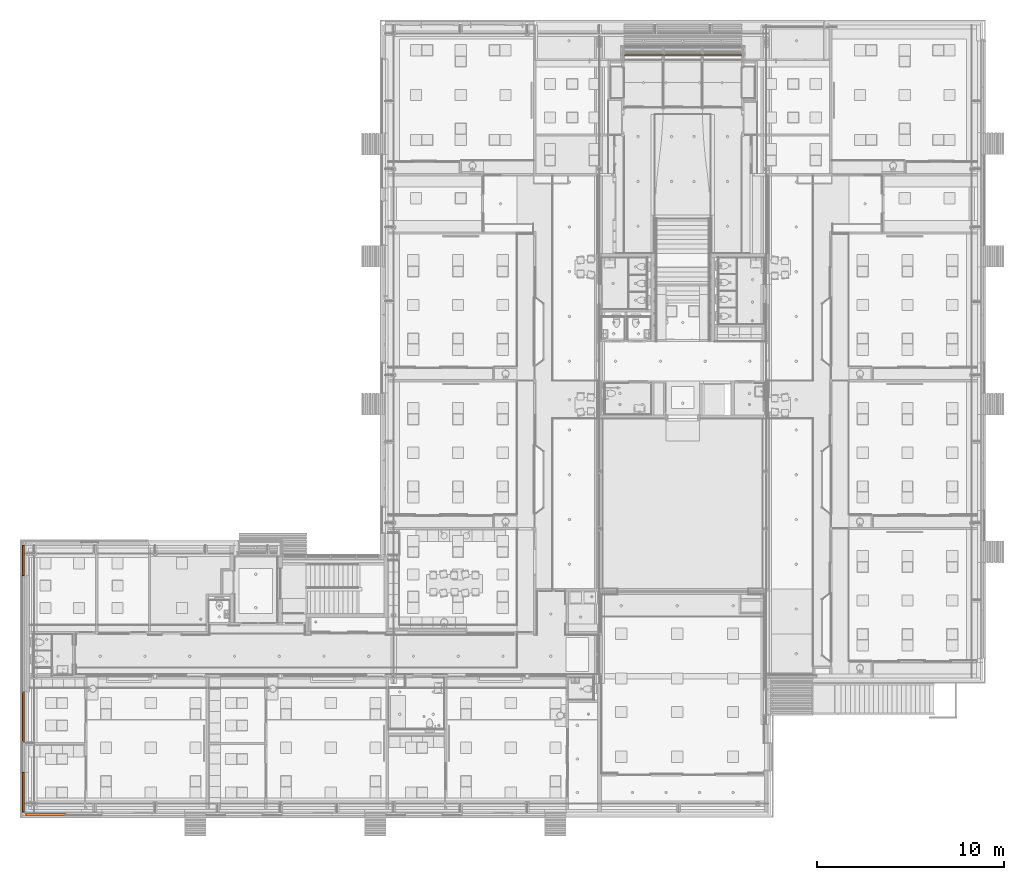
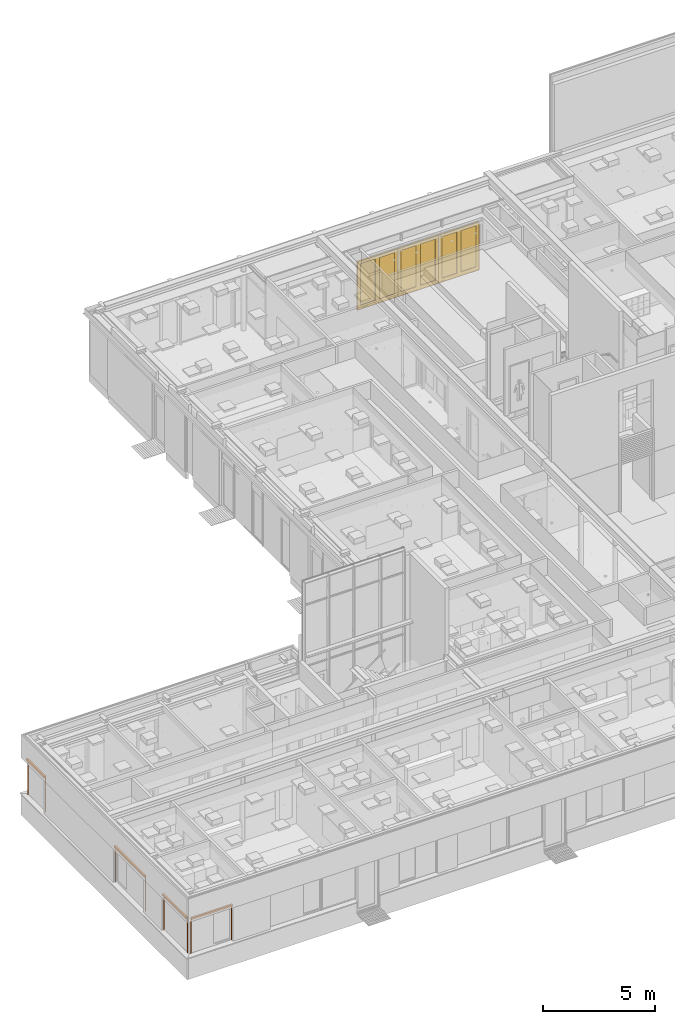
# One storey, part 338 of 347: 5 proxies, 3 doors, 3 openings.
"""IFC2X3 building model written with IfcOpenShell, lengths in millimetres."""

from ifc_helpers import new_model, entity, si_unit, converted_unit, derived_unit, money_unit, direction, frame, origin_with_axes, place, context, subcontext, project, spatial, open_shell, faceted_brep, surface_model, source, transform, mapped, material, type_object, type_shapes, element, fill, save


model = new_model("IFC2X3")

# Units and contexts
model_context = context("Model", 3, precision=0.01, world=origin_with_axes(), true_north=direction((0.0, 1.0)))
plan_context = context("Plan", 3, precision=0.01, world=origin_with_axes(), true_north=direction((0.0, 1.0)))
body_context = subcontext(model_context, "Body", "Model", "MODEL_VIEW")
ifc_project = project(units=[si_unit("LENGTHUNIT", "METRE", prefix="MILLI"), si_unit("AREAUNIT", "SQUARE_METRE"), si_unit("VOLUMEUNIT", "CUBIC_METRE"), converted_unit("PLANEANGLEUNIT", "DEGREE", entity("IfcPlaneAngleMeasure", 0.0174532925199), si_unit("PLANEANGLEUNIT", "RADIAN"), dimensions=[0, 0, 0, 0, 0, 0, 0]), money_unit("EUR"), converted_unit("TIMEUNIT", "Year", entity("IfcTimeMeasure", 31556926.0), si_unit("TIMEUNIT", "SECOND"), dimensions=[0, 0, 1, 0, 0, 0, 0]), si_unit("MASSUNIT", "GRAM", prefix="KILO"), si_unit("THERMODYNAMICTEMPERATUREUNIT", "DEGREE_CELSIUS"), si_unit("LUMINOUSINTENSITYUNIT", "LUMEN"), si_unit("ENERGYUNIT", "JOULE", prefix="MEGA"), derived_unit("THERMALCONDUCTANCEUNIT", [(si_unit("POWERUNIT", "WATT"), 1), (si_unit("LENGTHUNIT", "METRE"), -1), (si_unit("THERMODYNAMICTEMPERATUREUNIT", "KELVIN"), -1)]), derived_unit("SPECIFICHEATCAPACITYUNIT", [(si_unit("ENERGYUNIT", "JOULE"), 1), (si_unit("MASSUNIT", "GRAM", prefix="KILO"), -1), (si_unit("THERMODYNAMICTEMPERATUREUNIT", "KELVIN"), -1)]), derived_unit("MASSDENSITYUNIT", [(si_unit("MASSUNIT", "GRAM", prefix="KILO"), 1), (si_unit("VOLUMEUNIT", "CUBIC_METRE"), -1)])], contexts=[model_context, plan_context])

# Site, building, storey
site_placement = place(None, origin_with_axes())
site = spatial("IfcSite", under=ifc_project, at=site_placement, Name="Site", CompositionType="ELEMENT")
building_placement = place(site_placement, origin_with_axes())
building = spatial("IfcBuilding", under=site, at=building_placement, Name="Naam gebouw", CompositionType="ELEMENT")
storey_placement = place(building_placement, origin_with_axes())
storey = spatial("IfcBuildingStorey", under=building, at=storey_placement, Name="begane grond", CompositionType="ELEMENT", Elevation=0.0)

# Proxy, openings, doors
ifc_material = material(Name="ALG - BUITENkozijn")
building_element_proxy_type_1 = type_object("IfcBuildingElementProxyType", Name="ALG - BUITENkozijn 72", PredefinedType="NOTDEFINED")
proxy_1_placement = place(storey_placement, frame((36925.0, 45408.0, -70.0), z_axis=(0.0, 0.0, 1.0), x_axis=(1.0, 0.0, 0.0)))
proxy_1 = element("IfcBuildingElementProxy", 1, at=proxy_1_placement, inside=storey, type_object=building_element_proxy_type_1, material=ifc_material, Name="42_53 wandtegels keramisch", context=body_context, shape_type="Brep", body=[
    faceted_brep([(4205.0, 72.0, 30.0), (6295.0, 72.0, 30.0), (6295.0, 72.0, 2600.0), (6300.0, 72.0, 2600.0), (6300.0, 72.0, 70.0), (6300.0, 72.0, 0.0), (0.0, 72.0, 0.0), (0.0, 72.0, 70.0), (0.0, 72.0, 2600.0), (5.00000000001, 72.0, 2600.0), (5.00000000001, 72.0, 30.0), (2095.0, 72.0, 30.0), (2095.0, 72.0, 2600.0), (2105.0, 72.0, 2600.0), (2105.0, 72.0, 30.0), (4195.0, 72.0, 30.0), (4195.0, 72.0, 2600.0), (4205.0, 72.0, 2600.0), (4205.0, 0.0, 30.0), (6295.0, 0.0, 30.0), (6295.0, 0.0, 2600.0), (6300.0, 0.0, 2600.0), (6300.0, 0.0, 70.0), (6300.0, 0.0, 0.0), (0.0, 0.0, 0.0), (0.0, 0.0, 2600.0), (0.0, 0.0, 70.0), (5.00000000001, 0.0, 2600.0), (5.00000000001, 0.0, 30.0), (2095.0, 0.0, 30.0), (2095.0, 0.0, 2600.0), (2105.0, 0.0, 2600.0), (2105.0, 0.0, 30.0), (4195.0, 0.0, 30.0), (4195.0, 0.0, 2600.0), (4205.0, 0.0, 2600.0)], [[[0, 1, 2, 3, 4, 5, 6, 7, 8, 9, 10, 11, 12, 13, 14, 15, 16, 17]], [[1, 0, 18, 19]], [[20, 2, 1, 19]], [[2, 20, 21, 3]], [[3, 21, 22, 23, 5, 4]], [[5, 23, 24, 6]], [[25, 8, 7, 6, 24, 26]], [[9, 8, 25, 27]], [[9, 27, 28, 10]], [[10, 28, 29, 11]], [[12, 11, 29, 30]], [[30, 31, 13, 12]], [[31, 32, 14, 13]], [[32, 33, 15, 14]], [[15, 33, 34, 16]], [[35, 17, 16, 34]], [[0, 17, 35, 18]], [[18, 35, 34, 33, 32, 31, 30, 29, 28, 27, 25, 26, 24, 23, 22, 21, 20, 19]]]),
])
opening_1_placement = place(proxy_1_placement, frame((3150.0, 0.0, 30.0), z_axis=(0.0, 0.0, 1.0), x_axis=(1.0, 0.0, 0.0)))
opening_1 = element("IfcOpeningElement", 2, at=opening_1_placement, cuts=proxy_1, Name="31_merk-AV", context=body_context, shape_type="Brep", body=[
    faceted_brep([(-1045.0, 144.0, 2620.0), (-1045.0, 144.0, 0.0), (-1045.0, -72.0, 0.0), (-1045.0, -72.0, 2620.0), (1045.0, 144.0, 2620.0), (1045.0, 144.0, 0.0), (1045.0, -72.0, 0.0), (1045.0, -72.0, 2620.0)], [[[0, 1, 2, 3]], [[0, 4, 5, 1]], [[1, 5, 6, 2]], [[3, 2, 6, 7]], [[4, 0, 3, 7]], [[5, 4, 7, 6]]]),
])
opening_2_placement = place(proxy_1_placement, frame((1050.0, 0.0, 30.0), z_axis=(0.0, 0.0, 1.0), x_axis=(1.0, 0.0, 0.0)))
opening_2 = element("IfcOpeningElement", 3, at=opening_2_placement, cuts=proxy_1, Name="31_merk-AV", context=body_context, shape_type="Brep", body=[
    faceted_brep([(-1045.0, 144.0, 2620.0), (-1045.0, 144.0, 0.0), (-1045.0, -72.0, 0.0), (-1045.0, -72.0, 2620.0), (1045.0, 144.0, 2620.0), (1045.0, 144.0, 0.0), (1045.0, -72.0, 0.0), (1045.0, -72.0, 2620.0)], [[[0, 1, 2, 3]], [[0, 4, 5, 1]], [[1, 5, 6, 2]], [[3, 2, 6, 7]], [[4, 0, 3, 7]], [[5, 4, 7, 6]]]),
])
opening_3_placement = place(proxy_1_placement, frame((5250.0, 0.0, 30.0), z_axis=(0.0, 0.0, 1.0), x_axis=(1.0, 0.0, 0.0)))
opening_3 = element("IfcOpeningElement", 4, at=opening_3_placement, cuts=proxy_1, Name="31_merk-AV", context=body_context, shape_type="Brep", body=[
    faceted_brep([(-1045.0, 144.0, 2620.0), (-1045.0, 144.0, 0.0), (-1045.0, -72.0, 0.0), (-1045.0, -72.0, 2620.0), (1045.0, 144.0, 2620.0), (1045.0, 144.0, 0.0), (1045.0, -72.0, 0.0), (1045.0, -72.0, 2620.0)], [[[0, 1, 2, 3]], [[0, 4, 5, 1]], [[1, 5, 6, 2]], [[3, 2, 6, 7]], [[4, 0, 3, 7]], [[5, 4, 7, 6]]]),
])
door_style = type_object("IfcDoorStyle", Name="D2 25", ConstructionType="NOTDEFINED", OperationType="DOUBLE_DOOR_SINGLE_SWING", ParameterTakesPrecedence=False, Sizeable=False)
shared_shape = source(origin_with_axes(), body_context, "Body", "SurfaceModel", [
    faceted_brep([(994.0, -62.0, 48.0), (994.0, 0.0, 48.0), (-994.0, 0.0, 48.0), (-994.0, -62.0, 48.0), (-977.0, -62.0, 48.0), (-977.0, -72.0, 48.0), (977.0, -72.0, 48.0), (977.0, -62.0, 48.0), (994.0, -62.0, 0.0), (994.0, 0.0, 0.0), (-994.0, 0.0, 0.0), (-994.0, -62.0, 0.0), (-977.0, -62.0, 0.0), (-977.0, -72.0, 0.0), (977.0, -72.0, 0.0), (977.0, -62.0, 0.0)], [[[0, 1, 2, 3, 4, 5, 6, 7]], [[8, 9, 1, 0]], [[9, 10, 2, 1]], [[11, 3, 2, 10]], [[3, 11, 12, 4]], [[5, 4, 12, 13]], [[6, 5, 13, 14]], [[14, 15, 7, 6]], [[7, 15, 8, 0]], [[15, 14, 13, 12, 11, 10, 9, 8]]]),
    faceted_brep([(977.0, -71.0, 0.0), (977.0, -72.0, 0.0), (977.0, -72.0, 2552.0), (977.0, -71.0, 2552.0), (994.0, -71.0, 0.0), (994.0, 0.0, 0.0), (1045.0, 0.0, 0.0), (1045.0, -72.0, 0.0), (1045.0, -72.0, 2552.0), (994.0, -71.0, 2552.0), (1045.0, 0.0, 2552.0), (994.0, 0.0, 2552.0)], [[[0, 1, 2, 3]], [[4, 5, 6, 7, 1, 0]], [[1, 7, 8, 2]], [[9, 3, 2, 8, 10, 11]], [[9, 4, 0, 3]], [[11, 5, 4, 9]], [[11, 10, 6, 5]], [[6, 10, 8, 7]]]),
    faceted_brep([(-994.0, -71.0, 2552.0), (-994.0, 0.0, 2552.0), (-1045.0, 0.0, 2552.0), (-1045.0, -72.0, 2552.0), (-977.0, -72.0, 2552.0), (-977.0, -71.0, 2552.0), (-994.0, -71.0, 0.0), (-994.0, 0.0, 0.0), (-1045.0, 0.0, 0.0), (-1045.0, -72.0, 0.0), (-977.0, -72.0, 0.0), (-977.0, -71.0, 0.0)], [[[0, 1, 2, 3, 4, 5]], [[0, 6, 7, 1]], [[7, 8, 2, 1]], [[2, 8, 9, 3]], [[3, 9, 10, 4]], [[5, 4, 10, 11]], [[5, 11, 6, 0]], [[6, 11, 10, 9, 8, 7]]]),
    faceted_brep([(994.0, 0.0, 2569.0), (-994.0, 0.0, 2569.0), (-994.0, 0.0, 2552.0), (-1045.0, 0.0, 2552.0), (-1045.0, 0.0, 2620.0), (1045.0, 0.0, 2620.0), (1045.0, 0.0, 2552.0), (994.0, 0.0, 2552.0), (994.0, -71.0, 2569.0), (-994.0, -71.0, 2569.0), (-994.0, -71.0, 2552.0), (-977.0, -71.0, 2552.0), (-977.0, -72.0, 2552.0), (-1045.0, -72.0, 2552.0), (-1045.0, -72.0, 2620.0), (1045.0, -72.0, 2620.0), (1045.0, -72.0, 2552.0), (994.0, -71.0, 2552.0), (977.0, -72.0, 2552.0), (977.0, -71.0, 2552.0)], [[[0, 1, 2, 3, 4, 5, 6, 7]], [[0, 8, 9, 1]], [[1, 9, 10, 2]], [[10, 11, 12, 13, 3, 2]], [[4, 3, 13, 14]], [[5, 4, 14, 15]], [[6, 5, 15, 16]], [[17, 7, 6, 16, 18, 19]], [[7, 17, 8, 0]], [[10, 9, 8, 17, 19, 11]], [[19, 18, 12, 11]], [[12, 18, 16, 15, 14, 13]]]),
    faceted_brep([(-994.0, -9.0, 198.0), (-884.0, -9.0, 198.0), (-884.0, -71.0, 198.0), (-994.0, -71.0, 198.0), (-994.0, -9.0, 2459.0), (-884.0, -9.0, 2459.0), (-884.0, -71.0, 2459.0), (-994.0, -71.0, 2459.0)], [[[0, 1, 2, 3]], [[0, 4, 5, 1]], [[1, 5, 6, 2]], [[3, 2, 6, 7]], [[4, 0, 3, 7]], [[5, 4, 7, 6]]]),
    faceted_brep([(0.0, -9.0, 198.0), (0.0, -9.0, 2459.0), (0.0, -71.0, 2459.0), (0.0, -71.0, 198.0), (-110.0, -9.0, 198.0), (-110.0, -9.0, 2459.0), (-110.0, -71.0, 2459.0), (-110.0, -71.0, 198.0)], [[[0, 1, 2, 3]], [[0, 4, 5, 1]], [[1, 5, 6, 2]], [[3, 2, 6, 7]], [[4, 0, 3, 7]], [[5, 4, 7, 6]]]),
    faceted_brep([(-994.0, -9.0, 48.0), (0.0, -9.0, 48.0), (0.0, -71.0, 48.0), (-994.0, -71.0, 48.0), (-994.0, -9.0, 198.0), (-884.0, -9.0, 198.0), (-110.0, -9.0, 198.0), (0.0, -9.0, 198.0), (0.0, -71.0, 198.0), (-110.0, -71.0, 198.0), (-884.0, -71.0, 198.0), (-994.0, -71.0, 198.0)], [[[0, 1, 2, 3]], [[0, 4, 5, 6, 7, 1]], [[1, 7, 8, 2]], [[3, 2, 8, 9, 10, 11]], [[4, 0, 3, 11]], [[5, 4, 11, 10]], [[6, 5, 10, 9]], [[7, 6, 9, 8]]]),
    faceted_brep([(-994.0, -9.0, 2569.0), (-994.0, -9.0, 2459.0), (-994.0, -71.0, 2459.0), (-994.0, -71.0, 2569.0), (0.0, -9.0, 2569.0), (0.0, -9.0, 2459.0), (-110.0, -9.0, 2459.0), (-884.0, -9.0, 2459.0), (-884.0, -71.0, 2459.0), (-110.0, -71.0, 2459.0), (0.0, -71.0, 2459.0), (0.0, -71.0, 2569.0)], [[[0, 1, 2, 3]], [[0, 4, 5, 6, 7, 1]], [[1, 7, 8, 2]], [[3, 2, 8, 9, 10, 11]], [[4, 0, 3, 11]], [[5, 4, 11, 10]], [[6, 5, 10, 9]], [[7, 6, 9, 8]]]),
    surface_model("IfcShellBasedSurfaceModel", [(-884.0, -34.0, 198.0), (-884.0, -34.0, 2459.0), (-110.0, -34.0, 2459.0), (-110.0, -34.0, 198.0)], [open_shell([[[0, 1, 2, 3]]])]),
    surface_model("IfcShellBasedSurfaceModel", [(-884.0, -46.0, 198.0), (-110.0, -46.0, 198.0), (-110.0, -46.0, 2459.0), (-884.0, -46.0, 2459.0)], [open_shell([[[0, 1, 2, 3]]])]),
    faceted_brep([(994.0, -9.0, 198.0), (994.0, -71.0, 198.0), (884.0, -71.0, 198.0), (884.0, -9.0, 198.0), (994.0, -9.0, 2459.0), (994.0, -71.0, 2459.0), (884.0, -71.0, 2459.0), (884.0, -9.0, 2459.0)], [[[0, 1, 2, 3]], [[4, 5, 1, 0]], [[1, 5, 6, 2]], [[3, 2, 6, 7]], [[0, 3, 7, 4]], [[7, 6, 5, 4]]]),
    faceted_brep([(0.0, -9.0, 198.0), (0.0, -71.0, 198.0), (0.0, -71.0, 2459.0), (0.0, -9.0, 2459.0), (110.0, -9.0, 198.0), (110.0, -71.0, 198.0), (110.0, -71.0, 2459.0), (110.0, -9.0, 2459.0)], [[[0, 1, 2, 3]], [[4, 5, 1, 0]], [[1, 5, 6, 2]], [[3, 2, 6, 7]], [[0, 3, 7, 4]], [[7, 6, 5, 4]]]),
    faceted_brep([(994.0, -9.0, 48.0), (994.0, -71.0, 48.0), (0.0, -71.0, 48.0), (0.0, -9.0, 48.0), (994.0, -9.0, 198.0), (994.0, -71.0, 198.0), (884.0, -71.0, 198.0), (110.0, -71.0, 198.0), (0.0, -71.0, 198.0), (0.0, -9.0, 198.0), (110.0, -9.0, 198.0), (884.0, -9.0, 198.0)], [[[0, 1, 2, 3]], [[4, 5, 1, 0]], [[1, 5, 6, 7, 8, 2]], [[3, 2, 8, 9]], [[0, 3, 9, 10, 11, 4]], [[11, 6, 5, 4]], [[10, 7, 6, 11]], [[9, 8, 7, 10]]]),
    faceted_brep([(994.0, -9.0, 2569.0), (994.0, -71.0, 2569.0), (994.0, -71.0, 2459.0), (994.0, -9.0, 2459.0), (0.0, -9.0, 2569.0), (0.0, -71.0, 2569.0), (0.0, -71.0, 2459.0), (110.0, -71.0, 2459.0), (884.0, -71.0, 2459.0), (884.0, -9.0, 2459.0), (110.0, -9.0, 2459.0), (0.0, -9.0, 2459.0)], [[[0, 1, 2, 3]], [[4, 5, 1, 0]], [[1, 5, 6, 7, 8, 2]], [[3, 2, 8, 9]], [[0, 3, 9, 10, 11, 4]], [[11, 6, 5, 4]], [[10, 7, 6, 11]], [[9, 8, 7, 10]]]),
    surface_model("IfcShellBasedSurfaceModel", [(884.0, -34.0, 198.0), (110.0, -34.0, 198.0), (110.0, -34.0, 2459.0), (884.0, -34.0, 2459.0)], [open_shell([[[0, 1, 2, 3]]])]),
    surface_model("IfcShellBasedSurfaceModel", [(884.0, -46.0, 198.0), (884.0, -46.0, 2459.0), (110.0, -46.0, 2459.0), (110.0, -46.0, 198.0)], [open_shell([[[0, 1, 2, 3]]])]),
])
type_shapes(door_style, [shared_shape])
door_1_placement = place(opening_1_placement, frame((-1045.0, 0.0, 0.0), z_axis=(0.0, 0.0, 1.0), x_axis=(1.0, 0.0, 0.0)))
door_1 = element("IfcDoor", 5, at=door_1_placement, inside=storey, type_object=door_style, Name="31_merk-AV", ObjectType="DOOR", OverallHeight=2620.0, OverallWidth=2090.0, context=body_context, shape_type="MappedRepresentation", body=[
    mapped(shared_shape, transform((1045.0, 72.0, 0.0))),
])
fill(opening_1, door_1)
door_2_placement = place(opening_2_placement, frame((-1045.0, 0.0, 0.0), z_axis=(0.0, 0.0, 1.0), x_axis=(1.0, 0.0, 0.0)))
door_2 = element("IfcDoor", 6, at=door_2_placement, inside=storey, type_object=door_style, Name="31_merk-AV", ObjectType="DOOR", OverallHeight=2620.0, OverallWidth=2090.0, context=body_context, shape_type="MappedRepresentation", body=[
    mapped(shared_shape, transform((1045.0, 72.0, 0.0))),
])
fill(opening_2, door_2)
door_3_placement = place(opening_3_placement, frame((-1045.0, 0.0, 0.0), z_axis=(0.0, 0.0, 1.0), x_axis=(1.0, 0.0, 0.0)))
door_3 = element("IfcDoor", 7, at=door_3_placement, inside=storey, type_object=door_style, Name="31_merk-AV", ObjectType="DOOR", OverallHeight=2620.0, OverallWidth=2090.0, context=body_context, shape_type="MappedRepresentation", body=[
    mapped(shared_shape, transform((1045.0, 72.0, 0.0))),
])
fill(opening_3, door_3)

# Proxies
building_element_proxy_type_2 = type_object("IfcBuildingElementProxyType", Name="Screen 25 KM", PredefinedType="NOTDEFINED")
proxy_2_placement = place(storey_placement, frame((4850.0, 4767.00002055, 720.0), z_axis=(0.0, 0.0, 1.0), x_axis=(1.0, 0.0, 0.0)))
element("IfcBuildingElementProxy", 8, at=proxy_2_placement, inside=storey, type_object=building_element_proxy_type_2, Name="_78 garderobe", context=body_context, shape_type="SurfaceModel", body=[
    faceted_brep([(0.0, 0.0, 0.0), (0.0, -28.0, 0.0), (0.0, -28.0, 1885.0), (0.0, 0.0, 1885.0), (38.0, 0.0, 0.0), (38.0, -4.0, 0.0), (35.0, -4.0, 0.0), (35.0, -3.0, 0.0), (3.0, -3.0, 0.0), (3.0, -25.0, 0.0), (35.0, -25.0, 0.0), (35.0, -24.0, 0.0), (38.0, -24.0, 0.0), (38.0, -28.0, 0.0), (38.0, -28.0, 1885.0), (38.0, -24.0, 1885.0), (35.0, -24.0, 1885.0), (35.0, -25.0, 1885.0), (3.0, -25.0, 1885.0), (3.0, -3.0, 1885.0), (35.0, -3.0, 1885.0), (35.0, -4.0, 1885.0), (38.0, -4.0, 1885.0), (38.0, 0.0, 1885.0)], [[[0, 1, 2, 3]], [[0, 4, 5, 6, 7, 8, 9, 10, 11, 12, 13, 1]], [[1, 13, 14, 2]], [[3, 2, 14, 15, 16, 17, 18, 19, 20, 21, 22, 23]], [[4, 0, 3, 23]], [[5, 4, 23, 22]], [[6, 5, 22, 21]], [[7, 6, 21, 20]], [[8, 7, 20, 19]], [[9, 8, 19, 18]], [[10, 9, 18, 17]], [[11, 10, 17, 16]], [[12, 11, 16, 15]], [[13, 12, 15, 14]]]),
    faceted_brep([(2138.0, 0.0, 0.0), (2138.0, 0.0, 1885.0), (2138.0, -28.0, 1885.0), (2138.0, -28.0, 0.0), (2100.0, 0.0, 0.0), (2100.0, 0.0, 1885.0), (2100.0, -4.0, 1885.0), (2103.0, -4.0, 1885.0), (2103.0, -3.0, 1885.0), (2135.0, -3.0, 1885.0), (2135.0, -25.0, 1885.0), (2103.0, -25.0, 1885.0), (2103.0, -24.0, 1885.0), (2100.0, -24.0, 1885.0), (2100.0, -28.0, 1885.0), (2100.0, -28.0, 0.0), (2100.0, -24.0, 0.0), (2103.0, -24.0, 0.0), (2103.0, -25.0, 0.0), (2135.0, -25.0, 0.0), (2135.0, -3.0, 0.0), (2103.0, -3.0, 0.0), (2103.0, -4.0, 0.0), (2100.0, -4.0, 0.0)], [[[0, 1, 2, 3]], [[4, 5, 1, 0]], [[1, 5, 6, 7, 8, 9, 10, 11, 12, 13, 14, 2]], [[3, 2, 14, 15]], [[0, 3, 15, 16, 17, 18, 19, 20, 21, 22, 23, 4]], [[23, 6, 5, 4]], [[22, 7, 6, 23]], [[21, 8, 7, 22]], [[20, 9, 8, 21]], [[19, 10, 9, 20]], [[18, 11, 10, 19]], [[17, 12, 11, 18]], [[16, 13, 12, 17]], [[15, 14, 13, 16]]]),
    surface_model("IfcShellBasedSurfaceModel", [(0.0, 0.0, 1980.0), (0.0, 0.0, 1885.0), (0.0, -95.0, 1885.0), (0.0, -95.0, 1980.0)], [open_shell([[[0, 1, 2, 3]]])]),
    surface_model("IfcShellBasedSurfaceModel", [(0.01, 0.0, 1980.0), (0.00999999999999, -95.0, 1980.0), (2137.99, -95.0, 1980.0), (2137.99, 0.0, 1980.0), (0.01, 0.0, 1888.0), (0.01, -6.0, 1888.0), (0.01, -6.0, 1891.0), (0.01, -3.0, 1891.0), (0.01, -3.0, 1977.0), (0.00999999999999, -92.0, 1977.0), (0.01, -92.0, 1888.0), (0.01, -28.0, 1888.0), (0.01, -28.0, 1882.0), (0.01, -31.0, 1882.0), (0.01, -31.0, 1885.0), (0.01, -95.0, 1885.0), (2137.99, -95.0, 1885.0), (2137.99, -31.0, 1885.0), (2137.99, -31.0, 1882.0), (2137.99, -28.0, 1882.0), (2137.99, -28.0, 1888.0), (2137.99, -92.0, 1888.0), (2137.99, -92.0, 1977.0), (2137.99, -3.0, 1977.0), (2137.99, -3.0, 1891.0), (2137.99, -6.0, 1891.0), (2137.99, -6.0, 1888.0), (2137.99, 0.0, 1888.0)], [open_shell([[[0, 1, 2, 3]], [[0, 4, 5, 6, 7, 8, 9, 10, 11, 12, 13, 14, 15, 1]], [[1, 15, 16, 2]], [[3, 2, 16, 17, 18, 19, 20, 21, 22, 23, 24, 25, 26, 27]], [[4, 0, 3, 27]], [[13, 12, 19, 18]], [[14, 13, 18, 17]], [[15, 14, 17, 16]]])]),
    surface_model("IfcShellBasedSurfaceModel", [(2137.99, 0.0, 1980.0), (2137.99, 0.0, 1885.0), (2137.99, -95.0, 1885.0), (2137.99, -95.0, 1980.0)], [open_shell([[[0, 1, 2, 3]]])]),
])
proxy_3_placement = place(storey_placement, frame((4767.0, 6975.00002887, 720.0), z_axis=(0.0, 0.0, 1.0), x_axis=(0.0, -1.0, 0.0)))
element("IfcBuildingElementProxy", 9, at=proxy_3_placement, inside=storey, type_object=building_element_proxy_type_2, Name="_78 garderobe", context=body_context, shape_type="SurfaceModel", body=[
    faceted_brep([(0.0, 0.0, 0.0), (0.0, -28.0, 0.0), (0.0, -28.0, 1885.0), (0.0, 0.0, 1885.0), (38.0, 0.0, 0.0), (38.0, -4.0, 0.0), (35.0, -4.0, 0.0), (35.0, -3.0, 0.0), (3.0, -3.0, 0.0), (3.0, -25.0, 0.0), (35.0, -25.0, 0.0), (35.0, -24.0, 0.0), (38.0, -24.0, 0.0), (38.0, -28.0, 0.0), (38.0, -28.0, 1885.0), (38.0, -24.0, 1885.0), (35.0, -24.0, 1885.0), (35.0, -25.0, 1885.0), (3.0, -25.0, 1885.0), (3.0, -3.0, 1885.0), (35.0, -3.0, 1885.0), (35.0, -4.0, 1885.0), (38.0, -4.0, 1885.0), (38.0, 0.0, 1885.0)], [[[0, 1, 2, 3]], [[0, 4, 5, 6, 7, 8, 9, 10, 11, 12, 13, 1]], [[1, 13, 14, 2]], [[3, 2, 14, 15, 16, 17, 18, 19, 20, 21, 22, 23]], [[4, 0, 3, 23]], [[5, 4, 23, 22]], [[6, 5, 22, 21]], [[7, 6, 21, 20]], [[8, 7, 20, 19]], [[9, 8, 19, 18]], [[10, 9, 18, 17]], [[11, 10, 17, 16]], [[12, 11, 16, 15]], [[13, 12, 15, 14]]]),
    faceted_brep([(2125.00002887, 0.0, 0.0), (2125.00002887, 0.0, 1885.0), (2125.00002887, -28.0, 1885.0), (2125.00002887, -28.0, 0.0), (2087.00002887, 0.0, 0.0), (2087.00002887, 0.0, 1885.0), (2087.00002887, -4.0, 1885.0), (2090.00002887, -4.0, 1885.0), (2090.00002887, -3.0, 1885.0), (2122.00002887, -3.0, 1885.0), (2122.00002887, -25.0, 1885.0), (2090.00002887, -25.0, 1885.0), (2090.00002887, -24.0, 1885.0), (2087.00002887, -24.0, 1885.0), (2087.00002887, -28.0, 1885.0), (2087.00002887, -28.0, 0.0), (2087.00002887, -24.0, 0.0), (2090.00002887, -24.0, 0.0), (2090.00002887, -25.0, 0.0), (2122.00002887, -25.0, 0.0), (2122.00002887, -3.0, 0.0), (2090.00002887, -3.0, 0.0), (2090.00002887, -4.0, 0.0), (2087.00002887, -4.0, 0.0)], [[[0, 1, 2, 3]], [[4, 5, 1, 0]], [[1, 5, 6, 7, 8, 9, 10, 11, 12, 13, 14, 2]], [[3, 2, 14, 15]], [[0, 3, 15, 16, 17, 18, 19, 20, 21, 22, 23, 4]], [[23, 6, 5, 4]], [[22, 7, 6, 23]], [[21, 8, 7, 22]], [[20, 9, 8, 21]], [[19, 10, 9, 20]], [[18, 11, 10, 19]], [[17, 12, 11, 18]], [[16, 13, 12, 17]], [[15, 14, 13, 16]]]),
    surface_model("IfcShellBasedSurfaceModel", [(0.0, 0.0, 1980.0), (0.0, 0.0, 1885.0), (0.0, -95.0, 1885.0), (0.0, -95.0, 1980.0)], [open_shell([[[0, 1, 2, 3]]])]),
    surface_model("IfcShellBasedSurfaceModel", [(0.01, 0.0, 1980.0), (0.00999999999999, -95.0, 1980.0), (2124.99002887, -95.0, 1980.0), (2124.99002887, 0.0, 1980.0), (0.01, 0.0, 1888.0), (0.01, -6.0, 1888.0), (0.01, -6.0, 1891.0), (0.01, -3.0, 1891.0), (0.01, -3.0, 1977.0), (0.00999999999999, -92.0, 1977.0), (0.01, -92.0, 1888.0), (0.01, -28.0, 1888.0), (0.01, -28.0, 1882.0), (0.01, -31.0, 1882.0), (0.01, -31.0, 1885.0), (0.01, -95.0, 1885.0), (2124.99002887, -95.0, 1885.0), (2124.99002887, -31.0, 1885.0), (2124.99002887, -31.0, 1882.0), (2124.99002887, -28.0, 1882.0), (2124.99002887, -28.0, 1888.0), (2124.99002887, -92.0, 1888.0), (2124.99002887, -92.0, 1977.0), (2124.99002887, -3.0, 1977.0), (2124.99002887, -3.0, 1891.0), (2124.99002887, -6.0, 1891.0), (2124.99002887, -6.0, 1888.0), (2124.99002887, 0.0, 1888.0)], [open_shell([[[0, 1, 2, 3]], [[0, 4, 5, 6, 7, 8, 9, 10, 11, 12, 13, 14, 15, 1]], [[1, 15, 16, 2]], [[3, 2, 16, 17, 18, 19, 20, 21, 22, 23, 24, 25, 26, 27]], [[4, 0, 3, 27]], [[13, 12, 19, 18]], [[14, 13, 18, 17]], [[15, 14, 17, 16]]])]),
    surface_model("IfcShellBasedSurfaceModel", [(2124.99002887, 0.0, 1980.0), (2124.99002887, 0.0, 1885.0), (2124.99002887, -95.0, 1885.0), (2124.99002887, -95.0, 1980.0)], [open_shell([[[0, 1, 2, 3]]])]),
])
proxy_4_placement = place(storey_placement, frame((4767.0, 11289.9979311, 720.0), z_axis=(0.0, 0.0, 1.0), x_axis=(0.0, -1.0, 0.0)))
element("IfcBuildingElementProxy", 10, at=proxy_4_placement, inside=storey, type_object=building_element_proxy_type_2, Name="_78 garderobe", context=body_context, shape_type="SurfaceModel", body=[
    faceted_brep([(0.0, 0.0, 0.0), (0.0, -28.0, 0.0), (0.0, -28.0, 1885.0), (0.0, 0.0, 1885.0), (38.0, 0.0, 0.0), (38.0, -4.0, 0.0), (35.0, -4.0, 0.0), (35.0, -3.0, 0.0), (3.0, -3.0, 0.0), (3.0, -25.0, 0.0), (35.0, -25.0, 0.0), (35.0, -24.0, 0.0), (38.0, -24.0, 0.0), (38.0, -28.0, 0.0), (38.0, -28.0, 1885.0), (38.0, -24.0, 1885.0), (35.0, -24.0, 1885.0), (35.0, -25.0, 1885.0), (3.0, -25.0, 1885.0), (3.0, -3.0, 1885.0), (35.0, -3.0, 1885.0), (35.0, -4.0, 1885.0), (38.0, -4.0, 1885.0), (38.0, 0.0, 1885.0)], [[[0, 1, 2, 3]], [[0, 4, 5, 6, 7, 8, 9, 10, 11, 12, 13, 1]], [[1, 13, 14, 2]], [[3, 2, 14, 15, 16, 17, 18, 19, 20, 21, 22, 23]], [[4, 0, 3, 23]], [[5, 4, 23, 22]], [[6, 5, 22, 21]], [[7, 6, 21, 20]], [[8, 7, 20, 19]], [[9, 8, 19, 18]], [[10, 9, 18, 17]], [[11, 10, 17, 16]], [[12, 11, 16, 15]], [[13, 12, 15, 14]]]),
    faceted_brep([(2699.99793106, 0.0, 0.0), (2699.99793106, 0.0, 1885.0), (2699.99793106, -28.0, 1885.0), (2699.99793106, -28.0, 0.0), (2661.99793106, 0.0, 0.0), (2661.99793106, 0.0, 1885.0), (2661.99793106, -4.0, 1885.0), (2664.99793106, -4.0, 1885.0), (2664.99793106, -3.0, 1885.0), (2696.99793106, -3.0, 1885.0), (2696.99793106, -25.0, 1885.0), (2664.99793106, -25.0, 1885.0), (2664.99793106, -24.0, 1885.0), (2661.99793106, -24.0, 1885.0), (2661.99793106, -28.0, 1885.0), (2661.99793106, -28.0, 0.0), (2661.99793106, -24.0, 0.0), (2664.99793106, -24.0, 0.0), (2664.99793106, -25.0, 0.0), (2696.99793106, -25.0, 0.0), (2696.99793106, -3.0, 0.0), (2664.99793106, -3.0, 0.0), (2664.99793106, -4.0, 0.0), (2661.99793106, -4.0, 0.0)], [[[0, 1, 2, 3]], [[4, 5, 1, 0]], [[1, 5, 6, 7, 8, 9, 10, 11, 12, 13, 14, 2]], [[3, 2, 14, 15]], [[0, 3, 15, 16, 17, 18, 19, 20, 21, 22, 23, 4]], [[23, 6, 5, 4]], [[22, 7, 6, 23]], [[21, 8, 7, 22]], [[20, 9, 8, 21]], [[19, 10, 9, 20]], [[18, 11, 10, 19]], [[17, 12, 11, 18]], [[16, 13, 12, 17]], [[15, 14, 13, 16]]]),
    surface_model("IfcShellBasedSurfaceModel", [(0.0, 0.0, 1980.0), (0.0, 0.0, 1885.0), (0.0, -95.0, 1885.0), (0.0, -95.0, 1980.0)], [open_shell([[[0, 1, 2, 3]]])]),
    surface_model("IfcShellBasedSurfaceModel", [(0.01, 0.0, 1980.0), (0.00999999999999, -95.0, 1980.0), (2699.98793106, -95.0, 1980.0), (2699.98793106, 0.0, 1980.0), (0.01, 0.0, 1888.0), (0.01, -6.0, 1888.0), (0.01, -6.0, 1891.0), (0.01, -3.0, 1891.0), (0.01, -3.0, 1977.0), (0.00999999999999, -92.0, 1977.0), (0.01, -92.0, 1888.0), (0.01, -28.0, 1888.0), (0.01, -28.0, 1882.0), (0.01, -31.0, 1882.0), (0.01, -31.0, 1885.0), (0.01, -95.0, 1885.0), (2699.98793106, -95.0, 1885.0), (2699.98793106, -31.0, 1885.0), (2699.98793106, -31.0, 1882.0), (2699.98793106, -28.0, 1882.0), (2699.98793106, -28.0, 1888.0), (2699.98793106, -92.0, 1888.0), (2699.98793106, -92.0, 1977.0), (2699.98793106, -3.0, 1977.0), (2699.98793106, -3.0, 1891.0), (2699.98793106, -6.0, 1891.0), (2699.98793106, -6.0, 1888.0), (2699.98793106, 0.0, 1888.0)], [open_shell([[[0, 1, 2, 3]], [[0, 4, 5, 6, 7, 8, 9, 10, 11, 12, 13, 14, 15, 1]], [[1, 15, 16, 2]], [[3, 2, 16, 17, 18, 19, 20, 21, 22, 23, 24, 25, 26, 27]], [[4, 0, 3, 27]], [[13, 12, 19, 18]], [[14, 13, 18, 17]], [[15, 14, 17, 16]]])]),
    surface_model("IfcShellBasedSurfaceModel", [(2699.98793106, 0.0, 1980.0), (2699.98793106, 0.0, 1885.0), (2699.98793106, -95.0, 1885.0), (2699.98793106, -95.0, 1980.0)], [open_shell([[[0, 1, 2, 3]]])]),
])
proxy_5_placement = place(storey_placement, frame((4767.0, 19150.0, 720.0), z_axis=(0.0, 0.0, 1.0), x_axis=(0.0, -1.0, 0.0)))
element("IfcBuildingElementProxy", 11, at=proxy_5_placement, inside=storey, type_object=building_element_proxy_type_2, Name="_78 garderobe", context=body_context, shape_type="SurfaceModel", body=[
    faceted_brep([(0.0, 0.0, 0.0), (0.0, -28.0, 0.0), (0.0, -28.0, 1885.0), (0.0, 0.0, 1885.0), (38.0, 0.0, 0.0), (38.0, -4.0, 0.0), (35.0, -4.0, 0.0), (35.0, -3.0, 0.0), (3.0, -3.0, 0.0), (3.0, -25.0, 0.0), (35.0, -25.0, 0.0), (35.0, -24.0, 0.0), (38.0, -24.0, 0.0), (38.0, -28.0, 0.0), (38.0, -28.0, 1885.0), (38.0, -24.0, 1885.0), (35.0, -24.0, 1885.0), (35.0, -25.0, 1885.0), (3.0, -25.0, 1885.0), (3.0, -3.0, 1885.0), (35.0, -3.0, 1885.0), (35.0, -4.0, 1885.0), (38.0, -4.0, 1885.0), (38.0, 0.0, 1885.0)], [[[0, 1, 2, 3]], [[0, 4, 5, 6, 7, 8, 9, 10, 11, 12, 13, 1]], [[1, 13, 14, 2]], [[3, 2, 14, 15, 16, 17, 18, 19, 20, 21, 22, 23]], [[4, 0, 3, 23]], [[5, 4, 23, 22]], [[6, 5, 22, 21]], [[7, 6, 21, 20]], [[8, 7, 20, 19]], [[9, 8, 19, 18]], [[10, 9, 18, 17]], [[11, 10, 17, 16]], [[12, 11, 16, 15]], [[13, 12, 15, 14]]]),
    faceted_brep([(1625.00000335, 0.0, 0.0), (1625.00000335, 0.0, 1885.0), (1625.00000335, -28.0, 1885.0), (1625.00000335, -28.0, 0.0), (1587.00000335, 0.0, 0.0), (1587.00000335, 0.0, 1885.0), (1587.00000335, -4.0, 1885.0), (1590.00000335, -4.0, 1885.0), (1590.00000335, -3.0, 1885.0), (1622.00000335, -3.0, 1885.0), (1622.00000335, -25.0, 1885.0), (1590.00000335, -25.0, 1885.0), (1590.00000335, -24.0, 1885.0), (1587.00000335, -24.0, 1885.0), (1587.00000335, -28.0, 1885.0), (1587.00000335, -28.0, 0.0), (1587.00000335, -24.0, 0.0), (1590.00000335, -24.0, 0.0), (1590.00000335, -25.0, 0.0), (1622.00000335, -25.0, 0.0), (1622.00000335, -3.0, 0.0), (1590.00000335, -3.0, 0.0), (1590.00000335, -4.0, 0.0), (1587.00000335, -4.0, 0.0)], [[[0, 1, 2, 3]], [[4, 5, 1, 0]], [[1, 5, 6, 7, 8, 9, 10, 11, 12, 13, 14, 2]], [[3, 2, 14, 15]], [[0, 3, 15, 16, 17, 18, 19, 20, 21, 22, 23, 4]], [[23, 6, 5, 4]], [[22, 7, 6, 23]], [[21, 8, 7, 22]], [[20, 9, 8, 21]], [[19, 10, 9, 20]], [[18, 11, 10, 19]], [[17, 12, 11, 18]], [[16, 13, 12, 17]], [[15, 14, 13, 16]]]),
    surface_model("IfcShellBasedSurfaceModel", [(0.0, 0.0, 1980.0), (0.0, 0.0, 1885.0), (0.0, -95.0, 1885.0), (0.0, -95.0, 1980.0)], [open_shell([[[0, 1, 2, 3]]])]),
    surface_model("IfcShellBasedSurfaceModel", [(0.01, 0.0, 1980.0), (0.00999999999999, -95.0, 1980.0), (1624.99000335, -95.0, 1980.0), (1624.99000335, 0.0, 1980.0), (0.01, 0.0, 1888.0), (0.01, -6.0, 1888.0), (0.01, -6.0, 1891.0), (0.01, -3.0, 1891.0), (0.01, -3.0, 1977.0), (0.00999999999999, -92.0, 1977.0), (0.01, -92.0, 1888.0), (0.01, -28.0, 1888.0), (0.01, -28.0, 1882.0), (0.01, -31.0, 1882.0), (0.01, -31.0, 1885.0), (0.01, -95.0, 1885.0), (1624.99000335, -95.0, 1885.0), (1624.99000335, -31.0, 1885.0), (1624.99000335, -31.0, 1882.0), (1624.99000335, -28.0, 1882.0), (1624.99000335, -28.0, 1888.0), (1624.99000335, -92.0, 1888.0), (1624.99000335, -92.0, 1977.0), (1624.99000335, -3.0, 1977.0), (1624.99000335, -3.0, 1891.0), (1624.99000335, -6.0, 1891.0), (1624.99000335, -6.0, 1888.0), (1624.99000335, 0.0, 1888.0)], [open_shell([[[0, 1, 2, 3]], [[0, 4, 5, 6, 7, 8, 9, 10, 11, 12, 13, 14, 15, 1]], [[1, 15, 16, 2]], [[3, 2, 16, 17, 18, 19, 20, 21, 22, 23, 24, 25, 26, 27]], [[4, 0, 3, 27]], [[13, 12, 19, 18]], [[14, 13, 18, 17]], [[15, 14, 17, 16]]])]),
    surface_model("IfcShellBasedSurfaceModel", [(1624.99000335, 0.0, 1980.0), (1624.99000335, 0.0, 1885.0), (1624.99000335, -95.0, 1885.0), (1624.99000335, -95.0, 1980.0)], [open_shell([[[0, 1, 2, 3]]])]),
])

save(model, "model.ifc")
